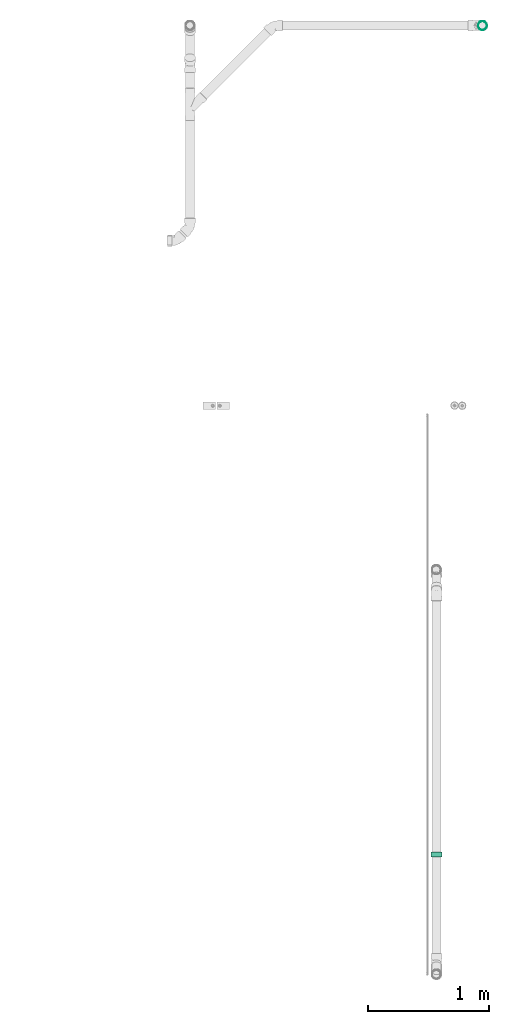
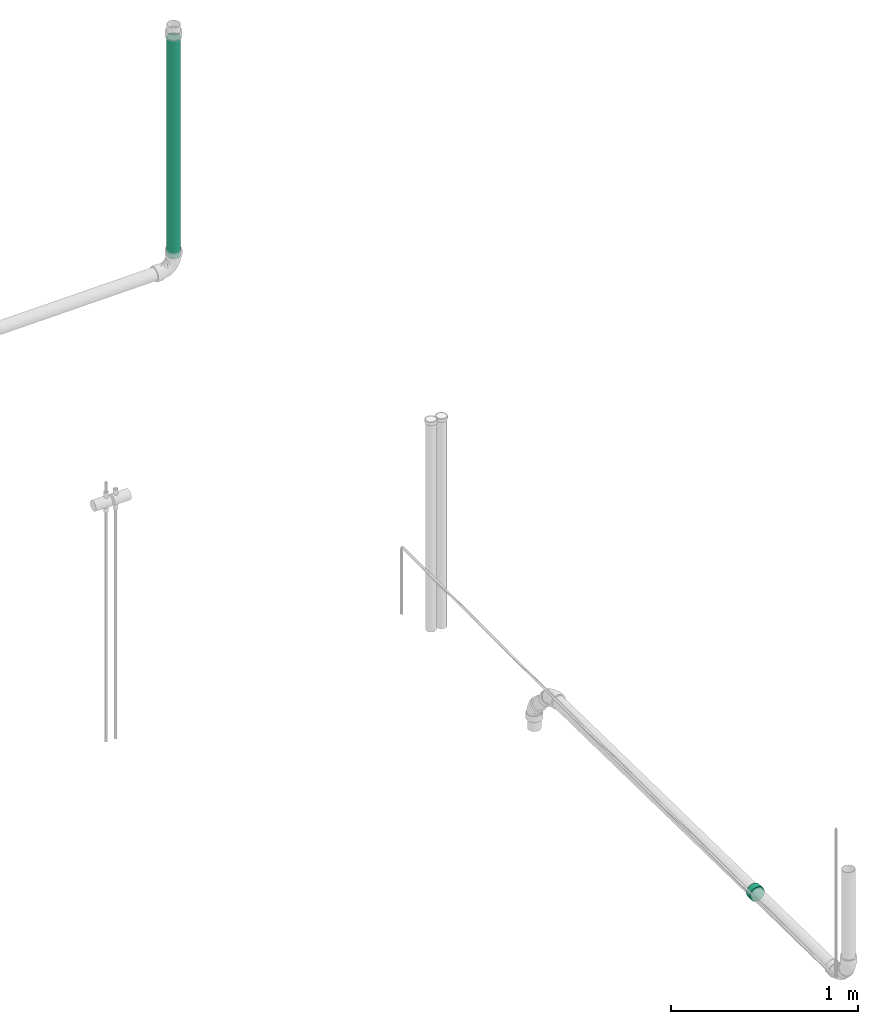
# One storey, part 6 of 18: 1 flow fitting, 1 flow segment.
"""IFC2X3 building model written with IfcOpenShell, lengths in millimetres."""

import ifcopenshell
import ifcopenshell.guid

model = None  # the IFC model being written
_history = None  # IfcOwnerHistory: only IFC2X3 demands one
_inside = {}  # id of a spatial element -> (the spatial element, [elements in it])
_under = {}  # id of a project, library or spatial element -> (it, [spatial elements below it])
_declared = {}  # id of a project -> (the project, [libraries it declares])
_typed = {}  # id of a type object -> (the type object, [elements of that type])
_made_of = {}  # id of a material, layer set ... -> (it, [elements and type objects made of it])


def new_model(schema):
    """Start an empty IFC model of exactly this schema.

    Asked for "IFC4X3", IfcOpenShell would pick the latest addendum, in which some entities
    have other attributes; the version numbers below select the first issue.
    IFC2X3 requires an IfcOwnerHistory on every rooted entity: one is made here for all.
    """
    global model, _history
    if schema == "IFC4X3":
        model = ifcopenshell.file(schema_version=(4, 3, 0, 0))
    else:
        model = ifcopenshell.file(schema=schema)
    _inside.clear()
    _under.clear()
    _declared.clear()
    _typed.clear()
    _made_of.clear()
    _history = None
    if model.schema == "IFC2X3":
        org = make("IfcOrganization", Name="unknown")
        user = make(
            "IfcPersonAndOrganization",
            ThePerson=make("IfcPerson", FamilyName="unknown"),
            TheOrganization=org,
        )
        app = make(
            "IfcApplication",
            ApplicationDeveloper=org,
            Version="unknown",
            ApplicationFullName="unknown",
            ApplicationIdentifier="unknown",
        )
        _history = make(
            "IfcOwnerHistory",
            OwningUser=user,
            OwningApplication=app,
            ChangeAction="ADDED",
            CreationDate=0,
        )
    return model


def make(cls, **values):
    """One entity of the class cls with the attributes given. An attribute that is None is left unset."""
    return model.create_entity(
        cls, **{name: value for name, value in values.items() if value is not None}
    )


def entity(cls, *values):
    """Any entity or typed value of the class cls, its attributes in the order of the schema. None: left unset."""
    e = model.create_entity(cls)
    for i, value in enumerate(values):
        if value is not None:
            e[i] = value
    return e


def rooted(cls, **values):
    """An entity with a GlobalId (a new one), such as an element, a storey or a relation."""
    return make(cls, GlobalId=ifcopenshell.guid.new(), OwnerHistory=_history, **values)


def si_unit(unit_type, name, prefix=None):
    """IfcSIUnit, for example si_unit("LENGTHUNIT", "METRE", prefix="MILLI")."""
    return make("IfcSIUnit", UnitType=unit_type, Prefix=prefix, Name=name)


def converted_unit(unit_type, name, factor, base, dimensions=None, offset=None):
    """IfcConversionBasedUnit, such as the inch: factor (a typed value) times the base unit."""
    return make(
        "IfcConversionBasedUnit"
        if offset is None
        else "IfcConversionBasedUnitWithOffset",
        ConversionOffset=offset,
        Dimensions=None
        if dimensions is None
        else entity("IfcDimensionalExponents", *dimensions),
        UnitType=unit_type,
        Name=name,
        ConversionFactor=make(
            "IfcMeasureWithUnit", ValueComponent=factor, UnitComponent=base
        ),
    )


def derived_unit(unit_type, elements):
    """IfcDerivedUnit: a product of units, each with its exponent."""
    return make(
        "IfcDerivedUnit",
        Elements=[
            make("IfcDerivedUnitElement", Unit=unit, Exponent=power)
            for unit, power in elements
        ],
        UnitType=unit_type,
    )


def assignment(units):
    """IfcUnitAssignment: the units of a project."""
    return None if units is None else make("IfcUnitAssignment", Units=units)


def point(xyz):
    """IfcCartesianPoint."""
    return None if xyz is None else make("IfcCartesianPoint", Coordinates=xyz)


def direction(xyz):
    """IfcDirection."""
    return None if xyz is None else make("IfcDirection", DirectionRatios=xyz)


def frame(location, z_axis=None, x_axis=None):
    """IfcAxis2Placement3D, a coordinate frame: its origin and axes. An axis left out is left unset."""
    return make(
        "IfcAxis2Placement3D",
        Location=point(location),
        Axis=direction(z_axis),
        RefDirection=direction(x_axis),
    )


def frame_2d(location, x_axis=None):
    """IfcAxis2Placement2D, a coordinate frame in the plane: its origin and x axis."""
    return make(
        "IfcAxis2Placement2D", Location=point(location), RefDirection=direction(x_axis)
    )


def origin_with_axes():
    """The frame at (0, 0, 0) with the z axis (0, 0, 1) and the x axis (1, 0, 0) written out."""
    return frame((0.0, 0.0, 0.0), z_axis=(0.0, 0.0, 1.0), x_axis=(1.0, 0.0, 0.0))


def origin_2d_with_axis():
    """The frame at (0, 0) in the plane with the x axis (1, 0) written out."""
    return frame_2d((0.0, 0.0), x_axis=(1.0, 0.0))


def place(relative_to, where):
    """IfcLocalPlacement: puts the frame where relative to a parent placement (None: the world)."""
    return make(
        "IfcLocalPlacement", PlacementRelTo=relative_to, RelativePlacement=where
    )


def context(
    kind, dimensions, precision=None, world=None, true_north=None, identifier=None
):
    """IfcGeometricRepresentationContext, for example the 3D "Model" context."""
    return make(
        "IfcGeometricRepresentationContext",
        ContextIdentifier=identifier,
        ContextType=kind,
        CoordinateSpaceDimension=dimensions,
        Precision=precision,
        WorldCoordinateSystem=world,
        TrueNorth=true_north,
    )


def subcontext(parent, identifier, kind, view, scale=None):
    """IfcGeometricRepresentationSubContext, for example "Body" below "Model"."""
    return make(
        "IfcGeometricRepresentationSubContext",
        ContextIdentifier=identifier,
        ContextType=kind,
        ParentContext=parent,
        TargetScale=scale,
        TargetView=view,
    )


def project(units=None, contexts=None):
    """IfcProject with its units and contexts."""
    return rooted(
        "IfcProject",
        Name="project",
        RepresentationContexts=contexts,
        UnitsInContext=assignment(units),
    )


def spatial(cls, under=None, at=None, **own):
    """A site, building, storey or space (cls), placed at a placement, below another one or the project."""
    s = rooted(cls, ObjectPlacement=at, **own)
    if under is not None:
        _under.setdefault(under.id(), (under, []))[1].append(s)
    return s


def profile(cls, at=None, kind="AREA", **sizes):
    """A parametric profile (cls). Its sizes go by their IFC names, for example OverallWidth=200.0."""
    return make(cls, ProfileType=kind, Position=at, **sizes)


def hollow_circle(**sizes):
    """IfcCircleHollowProfileDef."""
    return profile("IfcCircleHollowProfileDef", **sizes)


def extrude(swept, where, along, depth):
    """IfcExtrudedAreaSolid: the profile swept, set in the frame where, extruded along a direction by depth."""
    return make(
        "IfcExtrudedAreaSolid",
        SweptArea=swept,
        Position=where,
        ExtrudedDirection=direction(along),
        Depth=depth,
    )


def faces_of(points, faces, orient=None, outer=None):
    """IfcFace entities. A face is a list of loops; a loop is a list of indices into points, from 0.

    orient and outer hold one flag for each loop. By default every Orientation is true, the
    first loop of a face is its IfcFaceOuterBound and the others are IfcFaceBound.
    """
    made = []
    for i, loops in enumerate(faces):
        bounds = []
        for j, loop in enumerate(loops):
            is_outer = j == 0 if outer is None else outer[i][j]
            bounds.append(
                make(
                    "IfcFaceOuterBound" if is_outer else "IfcFaceBound",
                    Bound=make("IfcPolyLoop", Polygon=[points[k] for k in loop]),
                    Orientation=True if orient is None else orient[i][j],
                )
            )
        made.append(make("IfcFace", Bounds=bounds))
    return made


def open_shell(faces, orient=None, outer=None):
    """The faces of one IfcOpenShell. surface_model builds it on its shared points."""
    return ("IfcOpenShell", faces, orient, outer)


def surface_model(cls, points, shells):
    """IfcFaceBasedSurfaceModel or IfcShellBasedSurfaceModel (cls): surfaces that need not close."""
    shared = [point(p) for p in points]
    made = [make(c, CfsFaces=faces_of(shared, fs, o, b)) for c, fs, o, b in shells]
    if cls == "IfcFaceBasedSurfaceModel":
        return make(cls, FbsmFaces=made)
    return make(cls, SbsmBoundary=made)


def shape(context_of_items, identifier, shape_type, items):
    """IfcShapeRepresentation: the items that make up one representation, for example the "Body"."""
    return make(
        "IfcShapeRepresentation",
        ContextOfItems=context_of_items,
        RepresentationIdentifier=identifier,
        RepresentationType=shape_type,
        Items=items,
    )


def source(mapping_origin, context_of_items, identifier, shape_type, items):
    """IfcRepresentationMap: a shape defined once, which mapped items show again and again."""
    return make(
        "IfcRepresentationMap",
        MappingOrigin=mapping_origin,
        MappedRepresentation=shape(context_of_items, identifier, shape_type, items),
    )


def transform(
    local_origin,
    x_axis=None,
    y_axis=None,
    z_axis=None,
    scale=None,
    scale2=None,
    scale3=None,
    uniform=True,
):
    """IfcCartesianTransformationOperator3D, or its non-uniform kind. x_axis, y_axis, z_axis: its Axis1, 2, 3."""
    if uniform:
        return make(
            "IfcCartesianTransformationOperator3D",
            Axis1=direction(x_axis),
            Axis2=direction(y_axis),
            LocalOrigin=point(local_origin),
            Scale=scale,
            Axis3=direction(z_axis),
        )
    return make(
        "IfcCartesianTransformationOperator3DnonUniform",
        Axis1=direction(x_axis),
        Axis2=direction(y_axis),
        LocalOrigin=point(local_origin),
        Scale=scale,
        Axis3=direction(z_axis),
        Scale2=scale2,
        Scale3=scale3,
    )


def mapped(mapping_source, mapping_target):
    """IfcMappedItem: shows the shape of a source again, moved by a transform."""
    return make(
        "IfcMappedItem", MappingSource=mapping_source, MappingTarget=mapping_target
    )


def made_of(thing, what):
    """Note that an element or type object is made of a material, layer set ...; save() writes the relation."""
    if what is not None:
        _made_of.setdefault(what.id(), (what, []))[1].append(thing)
    return thing


def type_object(cls, material=None, **own):
    """A type object (cls), such as IfcWallType, which elements share."""
    return made_of(rooted(cls, **own), material)


def element(
    cls,
    number,
    at=None,
    inside=None,
    cuts=None,
    type_object=None,
    material=None,
    context=None,
    identifier="Body",
    shape_type=None,
    held_by="IfcProductDefinitionShape",
    body=None,
    shapes=None,
    **own,
):
    """One element of the class cls, such as IfcWall. Its Tag is "e" and its number.

    at: its placement. inside: the storey or other place that contains it. cuts: it is an
    opening in that element (IfcRelVoidsElement). A single representation is given by context,
    identifier, shape_type and body (its items); several are given by shapes. held_by: the class
    of the entity that holds the representations. save() writes the other relations.
    """
    e = rooted(cls, Tag="e%d" % number, ObjectPlacement=at, **own)
    if body is not None:
        shapes = [shape(context, identifier, shape_type, body)]
    if shapes is not None:
        e.Representation = make(held_by, Representations=shapes)
    if inside is not None:
        _inside.setdefault(inside.id(), (inside, []))[1].append(e)
    if cuts is not None:
        rooted(
            "IfcRelVoidsElement", RelatingBuildingElement=cuts, RelatedOpeningElement=e
        )
    if type_object is not None:
        _typed.setdefault(type_object.id(), (type_object, []))[1].append(e)
    return made_of(e, material)


def aggregate(whole, parts):
    """IfcRelAggregates: a whole, such as a stair, and the parts it consists of."""
    return rooted("IfcRelAggregates", RelatingObject=whole, RelatedObjects=parts)


def save(model, path):
    """Write the relations noted so far, then the file.

    IfcRelAggregates (storeys below a building ...), IfcRelContainedInSpatialStructure (elements
    in a storey), IfcRelDefinesByType, IfcRelAssociatesMaterial and IfcRelDeclares: one each for
    every whole, place, type object, material and project.
    """
    for whole, parts in _under.values():
        aggregate(whole, parts)
    for where, things in _inside.values():
        rooted(
            "IfcRelContainedInSpatialStructure",
            RelatedElements=things,
            RelatingStructure=where,
        )
    for kind, things in _typed.values():
        rooted("IfcRelDefinesByType", RelatedObjects=things, RelatingType=kind)
    for what, things in _made_of.values():
        rooted("IfcRelAssociatesMaterial", RelatedObjects=things, RelatingMaterial=what)
    for by, libraries in _declared.values():
        rooted("IfcRelDeclares", RelatingContext=by, RelatedDefinitions=libraries)
    model.write(path)


model = new_model("IFC2X3")

# Units and contexts
model_context = context("Model", 3, precision=0.01, world=frame((0.0, 4.29681676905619e-09, 0.0)), true_north=direction((4.01073788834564e-13, 1.0)))
plan_context = context("Plan", 3, precision=0.01, world=frame((0.0, 4.29681676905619e-09, 0.0)), true_north=direction((4.01073788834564e-13, 1.0)))
body_context = subcontext(model_context, "Body", "Model", "MODEL_VIEW")
ifc_project = project(units=[converted_unit("PLANEANGLEUNIT", "DEGREE", entity("IfcPositiveLengthMeasure", 0.0174532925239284), si_unit("PLANEANGLEUNIT", "RADIAN"), dimensions=[0, 0, 0, 0, 0, 0, 0]), si_unit("AREAUNIT", "SQUARE_METRE"), si_unit("LENGTHUNIT", "METRE", prefix="MILLI"), si_unit("MASSUNIT", "GRAM", prefix="KILO"), si_unit("POWERUNIT", "WATT"), si_unit("PRESSUREUNIT", "PASCAL", prefix="KILO"), si_unit("FORCEUNIT", "NEWTON", prefix="KILO"), si_unit("ELECTRICVOLTAGEUNIT", "VOLT"), si_unit("ELECTRICCURRENTUNIT", "AMPERE"), si_unit("THERMODYNAMICTEMPERATUREUNIT", "DEGREE_CELSIUS"), si_unit("TIMEUNIT", "SECOND"), si_unit("VOLUMEUNIT", "CUBIC_METRE"), derived_unit("LINEARVELOCITYUNIT", [(si_unit("LENGTHUNIT", "METRE"), 1), (si_unit("TIMEUNIT", "SECOND"), -1)]), derived_unit("VOLUMETRICFLOWRATEUNIT", [(si_unit("VOLUMEUNIT", "CUBIC_METRE"), 1), (si_unit("TIMEUNIT", "SECOND"), -1)]), derived_unit("THERMALTRANSMITTANCEUNIT", [(si_unit("POWERUNIT", "WATT"), 1), (si_unit("THERMODYNAMICTEMPERATUREUNIT", "KELVIN"), -1), (si_unit("AREAUNIT", "SQUARE_METRE"), -1)]), derived_unit("SOUNDPRESSUREUNIT", [(si_unit("PRESSUREUNIT", "PASCAL"), 1)])], contexts=[model_context, plan_context])

# Site, building, storey
site_placement = place(None, frame((0.0, -4.29681676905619e-09, 0.0), z_axis=(0.0, 0.0, 1.0), x_axis=(1.0, 0.0, 0.0)))
site = spatial("IfcSite", under=ifc_project, at=site_placement, Name="ENGM", CompositionType="ELEMENT")
building_placement = place(site_placement, frame((0.0, 4.29681676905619e-09, 0.0), z_axis=(0.0, 0.0, 1.0), x_axis=(1.0, 0.0, 0.0)))
building = spatial("IfcBuilding", under=site, at=building_placement, Name="TI", CompositionType="ELEMENT")
storey_placement = place(building_placement, frame((0.0, 0.0, 204000.0), z_axis=(0.0, 0.0, 1.0), x_axis=(1.0, 0.0, 0.0)))
storey = spatial("IfcBuildingStorey", under=building, at=storey_placement, Name="Nivå D", CompositionType="ELEMENT", Elevation=204000.0)

# Flow fitting
pipe_fitting_type = type_object("IfcPipeFittingType", Name="magi_sewer_union_001", PredefinedType="CONNECTOR")
shared_shape_1 = source(origin_with_axes(), body_context, "Body", "SurfaceModel", [
    surface_model("IfcShellBasedSurfaceModel", [(0.0, 31.81981, 31.81981), (0.0, 38.97115, 22.5), (0.0, 22.5, 38.97115), (40.0, -31.81981, -31.81981), (40.0, -43.46666, -11.64686), (40.0, -38.97115, -22.5), (40.0, -38.97115, 22.5), (0.0, -38.97115, 22.5), (0.0, -43.46666, 11.64686), (40.0, -43.46666, 11.64686), (0.0, -45.0, 0.0), (0.0, -43.46666, -11.64686), (0.0, -38.97115, -22.5), (40.0, -11.64686, -43.46666), (0.0, -11.64686, -43.46666), (0.0, 0.0, -45.0), (40.0, 38.97115, -22.5), (0.0, 38.97115, -22.5), (0.0, 43.46666, -11.64686), (40.0, 43.46666, -11.64686), (0.0, 22.5, -38.97115), (0.0, 11.64686, -43.46666), (0.0, 31.81981, -31.81981), (0.0, -31.81981, -31.81981), (0.0, -22.5, -38.97115), (0.0, -22.5, 38.97115), (0.0, 43.46666, 11.64686), (0.0, 0.0, 45.0), (0.0, 11.64686, 43.46666), (0.0, -31.81981, 31.81981), (0.0, -11.64686, 43.46666), (0.0, 45.0, 0.0), (40.0, 0.0, -45.0), (40.0, 11.64686, -43.46666), (40.0, 22.5, -38.97115), (40.0, 31.81981, -31.81981), (40.0, -22.5, -38.97115), (40.0, -22.5, 38.97115), (40.0, -45.0, 0.0), (40.0, 43.46666, 11.64686), (40.0, 38.97115, 22.5), (40.0, 22.5, 38.97115), (40.0, 31.81981, 31.81981), (40.0, 0.0, 45.0), (40.0, 11.64686, 43.46666), (40.0, -31.81981, 31.81981), (40.0, -11.64686, 43.46666), (40.0, 45.0, 0.0)], [open_shell([[[0, 1, 2]], [[3, 4, 5]], [[6, 7, 8]], [[6, 8, 9]], [[4, 10, 11]], [[3, 5, 12]], [[13, 14, 15]], [[16, 17, 18]], [[16, 18, 19]], [[20, 21, 15]], [[22, 20, 15]], [[18, 17, 22]], [[15, 18, 22]], [[23, 18, 15]], [[14, 24, 15]], [[24, 23, 15]], [[12, 11, 23]], [[25, 23, 11]], [[11, 10, 25]], [[18, 23, 25]], [[18, 1, 26]], [[27, 1, 18]], [[2, 1, 27]], [[28, 2, 27]], [[7, 29, 10]], [[10, 8, 7]], [[30, 27, 25]], [[10, 29, 25]], [[18, 25, 27]], [[31, 18, 26]], [[32, 33, 34]], [[32, 34, 35]], [[35, 16, 19]], [[35, 19, 32]], [[32, 19, 3]], [[32, 36, 13]], [[32, 3, 36]], [[4, 3, 37]], [[37, 38, 4]], [[37, 3, 19]], [[39, 40, 19]], [[19, 40, 37]], [[37, 40, 41]], [[41, 40, 42]], [[43, 41, 44]], [[38, 45, 6]], [[6, 9, 38]], [[37, 43, 46]], [[37, 45, 38]], [[41, 43, 37]], [[47, 39, 19]], [[9, 10, 38]], [[29, 45, 37]], [[6, 45, 7]], [[25, 37, 46]], [[8, 10, 9]], [[30, 43, 27]], [[30, 25, 46]], [[29, 37, 25]], [[29, 7, 45]], [[43, 30, 46]], [[2, 44, 41]], [[42, 0, 41]], [[26, 40, 39]], [[42, 40, 1]], [[31, 39, 47]], [[27, 44, 28]], [[28, 44, 2]], [[41, 0, 2]], [[42, 1, 0]], [[26, 1, 40]], [[31, 26, 39]], [[44, 27, 43]], [[19, 31, 47]], [[22, 35, 34]], [[16, 35, 17]], [[20, 34, 33]], [[18, 31, 19]], [[21, 32, 15]], [[21, 20, 33]], [[22, 34, 20]], [[22, 17, 35]], [[32, 21, 33]], [[24, 13, 36]], [[3, 23, 36]], [[11, 5, 4]], [[10, 4, 38]], [[13, 24, 14]], [[36, 23, 24]], [[3, 12, 23]], [[11, 12, 5]], [[13, 15, 32]]])]),
])
flow_fitting_placement = place(storey_placement, frame((593020.37788, 571295.07884, 6270.97972), z_axis=(-3.30872245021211e-24, 0.0166640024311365, 0.999861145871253), x_axis=(1.00000011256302e-06, -0.999861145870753, 0.0166640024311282)))
element("IfcFlowFitting", 1, at=flow_fitting_placement, inside=storey, type_object=pipe_fitting_type, Name="magi_sewer_union_001", context=body_context, shape_type="MappedRepresentation", body=[
    mapped(shared_shape_1, transform((0.0, 0.0, 0.0), scale=1.0)),
])

# Flow segment
pipe_segment_type = type_object("IfcPipeSegmentType", Name="PP avløpsrør", PredefinedType="RIGIDSEGMENT")
shared_shape_2 = source(origin_with_axes(), body_context, "Body", "SweptSolid", [
    extrude(hollow_circle(Radius=37.5, WallThickness=2.0, at=origin_2d_with_axis()), frame((0.0, 0.0, 0.0), z_axis=(1.0, 0.0, 0.0), x_axis=(0.0, 1.0, 0.0)), (0.0, 0.0, 1.0), 1423.4),
])
flow_segment_placement = place(storey_placement, frame((593402.06398, 578148.49574, 6123.44761), z_axis=(1.29246970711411e-26, 0.999999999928, 1.1999999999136e-05), x_axis=(-6.9999999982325e-06, -1.1999999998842e-05, 0.9999999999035)))
element("IfcFlowSegment", 2, at=flow_segment_placement, inside=storey, type_object=pipe_segment_type, Name="PP avløpsrør", context=body_context, shape_type="MappedRepresentation", body=[
    mapped(shared_shape_2, transform((0.0, 0.0, 0.0), scale=1.0)),
])

save(model, "model.ifc")
